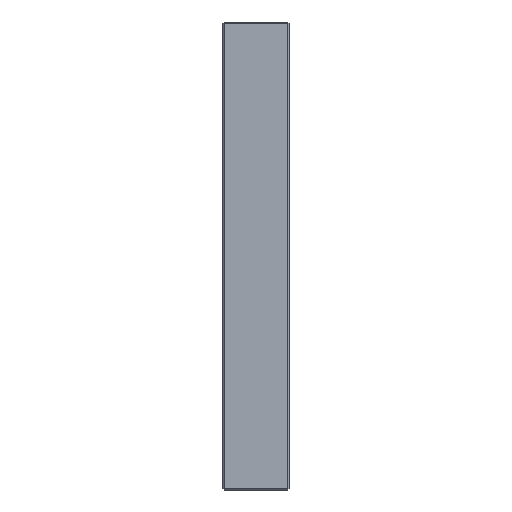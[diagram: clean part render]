
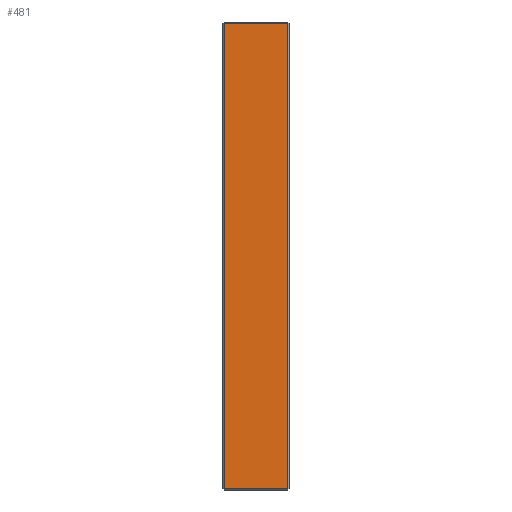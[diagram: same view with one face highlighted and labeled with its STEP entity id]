
A CAD part, left-side view. The second image highlights one B-rep face of the part: STEP entity #481.
In plain terms, the highlighted planar face has unit normal (-1, 0, 0).
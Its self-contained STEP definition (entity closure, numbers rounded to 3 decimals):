
#2 = ORIENTED_EDGE ( 'NONE', *, *, #844, .T. ) ;
#128 = CARTESIAN_POINT ( 'NONE',  ( -198., 55., 197. ) ) ;
#173 = CARTESIAN_POINT ( 'NONE',  ( -198., 1., 197. ) ) ;
#261 = EDGE_CURVE ( 'NONE', #1593, #1896, #1086, .T. ) ;
#393 = DIRECTION ( 'NONE',  ( 0., 0., -1. ) ) ;
#404 = DIRECTION ( 'NONE',  ( 1., 0., 0. ) ) ;
#428 = PLANE ( 'NONE',  #1713 ) ;
#437 = VECTOR ( 'NONE', #921, 1000. ) ;
#467 = CARTESIAN_POINT ( 'NONE',  ( -198., 56., 198. ) ) ;
#481 = ADVANCED_FACE ( 'NONE', ( #1644 ), #428, .F. ) ;
#590 = ORIENTED_EDGE ( 'NONE', *, *, #973, .T. ) ;
#825 = VECTOR ( 'NONE', #2036, 1000. ) ;
#844 = EDGE_CURVE ( 'NONE', #1896, #2609, #1841, .T. ) ;
#921 = DIRECTION ( 'NONE',  ( 0., -1., 0. ) ) ;
#947 = CARTESIAN_POINT ( 'NONE',  ( -198., 56., -197. ) ) ;
#973 = EDGE_CURVE ( 'NONE', #2609, #1136, #1996, .T. ) ;
#1086 = LINE ( 'NONE', #2080, #2173 ) ;
#1124 = DIRECTION ( 'NONE',  ( 0., 0., -1. ) ) ;
#1136 = VERTEX_POINT ( 'NONE', #1730 ) ;
#1161 = VECTOR ( 'NONE', #1124, 1000. ) ;
#1248 = CARTESIAN_POINT ( 'NONE',  ( -198., 55., 198. ) ) ;
#1294 = LINE ( 'NONE', #1648, #825 ) ;
#1394 = EDGE_CURVE ( 'NONE', #1136, #1593, #1294, .T. ) ;
#1505 = ORIENTED_EDGE ( 'NONE', *, *, #1394, .T. ) ;
#1593 = VERTEX_POINT ( 'NONE', #173 ) ;
#1644 = FACE_OUTER_BOUND ( 'NONE', #2188, .T. ) ;
#1648 = CARTESIAN_POINT ( 'NONE',  ( -198., 1., 198. ) ) ;
#1713 = AXIS2_PLACEMENT_3D ( 'NONE', #467, #404, #393 ) ;
#1730 = CARTESIAN_POINT ( 'NONE',  ( -198., 1., -197. ) ) ;
#1841 = LINE ( 'NONE', #1248, #1161 ) ;
#1896 = VERTEX_POINT ( 'NONE', #128 ) ;
#1996 = LINE ( 'NONE', #947, #437 ) ;
#2005 = ORIENTED_EDGE ( 'NONE', *, *, #261, .T. ) ;
#2036 = DIRECTION ( 'NONE',  ( 0., 0., 1. ) ) ;
#2080 = CARTESIAN_POINT ( 'NONE',  ( -198., 56., 197. ) ) ;
#2096 = DIRECTION ( 'NONE',  ( 0., 1., 0. ) ) ;
#2173 = VECTOR ( 'NONE', #2096, 1000. ) ;
#2188 = EDGE_LOOP ( 'NONE', ( #2005, #2, #590, #1505 ) ) ;
#2542 = CARTESIAN_POINT ( 'NONE',  ( -198., 55., -197. ) ) ;
#2609 = VERTEX_POINT ( 'NONE', #2542 ) ;
